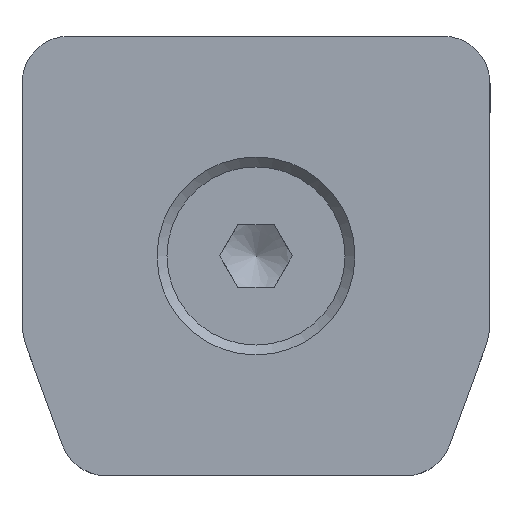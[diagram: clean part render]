
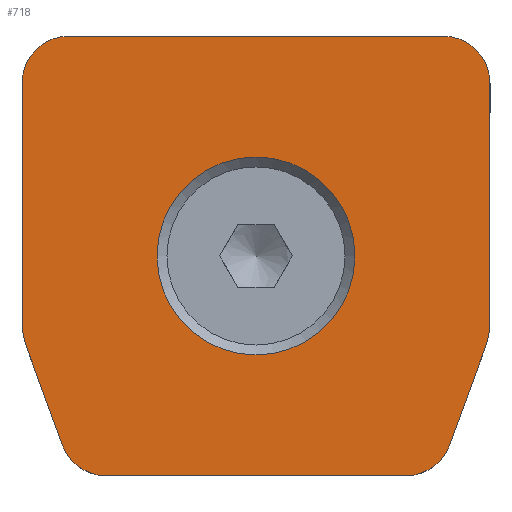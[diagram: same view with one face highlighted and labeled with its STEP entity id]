
A CAD part, top view. The second image highlights one B-rep face of the part: STEP entity #718.
In plain terms, the highlighted planar face has unit normal (0, 0, 1).
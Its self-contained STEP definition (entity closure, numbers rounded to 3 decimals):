
#51=FACE_BOUND('',#180,.T.);
#63=CIRCLE('',#756,6.3);
#65=CIRCLE('',#760,4.75);
#67=CIRCLE('',#764,3.);
#69=CIRCLE('',#768,3.);
#71=CIRCLE('',#772,4.75);
#73=CIRCLE('',#776,3.);
#75=CIRCLE('',#780,3.);
#133=FACE_OUTER_BOUND('',#179,.T.);
#179=EDGE_LOOP('',(#596,#597,#598,#599,#600,#601,#602,#603,#604,#605,#606,
#607));
#180=EDGE_LOOP('',(#608));
#235=LINE('',#1107,#293);
#240=LINE('',#1121,#298);
#244=LINE('',#1133,#302);
#248=LINE('',#1145,#306);
#252=LINE('',#1157,#310);
#256=LINE('',#1169,#314);
#293=VECTOR('',#876,15.162);
#298=VECTOR('',#889,6.639);
#302=VECTOR('',#901,19.047);
#306=VECTOR('',#913,6.639);
#310=VECTOR('',#925,15.162);
#314=VECTOR('',#937,23.8);
#345=VERTEX_POINT('',#1100);
#347=VERTEX_POINT('',#1105);
#348=VERTEX_POINT('',#1106);
#351=VERTEX_POINT('',#1114);
#353=VERTEX_POINT('',#1120);
#355=VERTEX_POINT('',#1126);
#357=VERTEX_POINT('',#1132);
#359=VERTEX_POINT('',#1138);
#361=VERTEX_POINT('',#1144);
#363=VERTEX_POINT('',#1150);
#365=VERTEX_POINT('',#1156);
#367=VERTEX_POINT('',#1162);
#369=VERTEX_POINT('',#1168);
#418=EDGE_CURVE('',#345,#345,#63,.T.);
#420=EDGE_CURVE('',#347,#348,#235,.T.);
#424=EDGE_CURVE('',#348,#351,#65,.T.);
#427=EDGE_CURVE('',#351,#353,#240,.T.);
#430=EDGE_CURVE('',#353,#355,#67,.T.);
#433=EDGE_CURVE('',#355,#357,#244,.T.);
#436=EDGE_CURVE('',#357,#359,#69,.T.);
#439=EDGE_CURVE('',#359,#361,#248,.T.);
#442=EDGE_CURVE('',#361,#363,#71,.T.);
#445=EDGE_CURVE('',#363,#365,#252,.T.);
#448=EDGE_CURVE('',#365,#367,#73,.T.);
#451=EDGE_CURVE('',#367,#369,#256,.T.);
#454=EDGE_CURVE('',#369,#347,#75,.T.);
#596=ORIENTED_EDGE('',*,*,#420,.F.);
#597=ORIENTED_EDGE('',*,*,#454,.F.);
#598=ORIENTED_EDGE('',*,*,#451,.F.);
#599=ORIENTED_EDGE('',*,*,#448,.F.);
#600=ORIENTED_EDGE('',*,*,#445,.F.);
#601=ORIENTED_EDGE('',*,*,#442,.F.);
#602=ORIENTED_EDGE('',*,*,#439,.F.);
#603=ORIENTED_EDGE('',*,*,#436,.F.);
#604=ORIENTED_EDGE('',*,*,#433,.F.);
#605=ORIENTED_EDGE('',*,*,#430,.F.);
#606=ORIENTED_EDGE('',*,*,#427,.F.);
#607=ORIENTED_EDGE('',*,*,#424,.F.);
#608=ORIENTED_EDGE('',*,*,#418,.T.);
#683=PLANE('',#783);
#718=ADVANCED_FACE('',(#133,#51),#683,.T.);
#756=AXIS2_PLACEMENT_3D('',#1101,#870,#871);
#760=AXIS2_PLACEMENT_3D('',#1115,#882,#883);
#764=AXIS2_PLACEMENT_3D('',#1127,#894,#895);
#768=AXIS2_PLACEMENT_3D('',#1139,#906,#907);
#772=AXIS2_PLACEMENT_3D('',#1151,#918,#919);
#776=AXIS2_PLACEMENT_3D('',#1163,#930,#931);
#780=AXIS2_PLACEMENT_3D('',#1174,#942,#943);
#783=AXIS2_PLACEMENT_3D('',#1177,#948,#949);
#870=DIRECTION('center_axis',(0.,0.,-1.));
#871=DIRECTION('ref_axis',(1.,0.,0.));
#876=DIRECTION('',(0.,-1.,0.));
#882=DIRECTION('center_axis',(0.,0.,-1.));
#883=DIRECTION('ref_axis',(0.94,-0.342,0.));
#889=DIRECTION('',(-0.342,-0.94,0.));
#894=DIRECTION('center_axis',(0.,0.,-1.));
#895=DIRECTION('ref_axis',(0.,-1.,0.));
#901=DIRECTION('',(-1.,0.,0.));
#906=DIRECTION('center_axis',(0.,0.,-1.));
#907=DIRECTION('ref_axis',(-0.94,-0.342,0.));
#913=DIRECTION('',(-0.342,0.94,0.));
#918=DIRECTION('center_axis',(0.,0.,-1.));
#919=DIRECTION('ref_axis',(-1.,0.,0.));
#925=DIRECTION('',(0.,1.,0.));
#930=DIRECTION('center_axis',(0.,0.,-1.));
#931=DIRECTION('ref_axis',(0.,1.,0.));
#937=DIRECTION('',(1.,0.,0.));
#942=DIRECTION('center_axis',(0.,0.,-1.));
#943=DIRECTION('ref_axis',(1.,0.,0.));
#948=DIRECTION('center_axis',(0.,0.,1.));
#949=DIRECTION('ref_axis',(1.,0.,0.));
#1100=CARTESIAN_POINT('',(6.45,0.162,3.));
#1101=CARTESIAN_POINT('Origin',(0.15,0.162,3.));
#1105=CARTESIAN_POINT('',(15.05,11.162,3.));
#1106=CARTESIAN_POINT('',(15.05,-4.,3.));
#1107=CARTESIAN_POINT('',(15.05,-4.,3.));
#1114=CARTESIAN_POINT('',(14.764,-5.625,3.));
#1115=CARTESIAN_POINT('Origin',(10.3,-4.,3.));
#1120=CARTESIAN_POINT('',(12.493,-11.864,3.));
#1121=CARTESIAN_POINT('',(12.493,-11.864,3.));
#1126=CARTESIAN_POINT('',(9.674,-13.838,3.));
#1127=CARTESIAN_POINT('Origin',(9.674,-10.838,3.));
#1132=CARTESIAN_POINT('',(-9.374,-13.838,3.));
#1133=CARTESIAN_POINT('',(-9.374,-13.838,3.));
#1138=CARTESIAN_POINT('',(-12.193,-11.864,3.));
#1139=CARTESIAN_POINT('Origin',(-9.374,-10.838,3.));
#1144=CARTESIAN_POINT('',(-14.464,-5.625,3.));
#1145=CARTESIAN_POINT('',(-14.464,-5.625,3.));
#1150=CARTESIAN_POINT('',(-14.75,-4.,3.));
#1151=CARTESIAN_POINT('Origin',(-10.,-4.,3.));
#1156=CARTESIAN_POINT('',(-14.75,11.162,3.));
#1157=CARTESIAN_POINT('',(-14.75,11.162,3.));
#1162=CARTESIAN_POINT('',(-11.75,14.162,3.));
#1163=CARTESIAN_POINT('Origin',(-11.75,11.162,3.));
#1168=CARTESIAN_POINT('',(12.05,14.162,3.));
#1169=CARTESIAN_POINT('',(12.05,14.162,3.));
#1174=CARTESIAN_POINT('Origin',(12.05,11.162,3.));
#1177=CARTESIAN_POINT('Origin',(0.15,0.72,3.));
